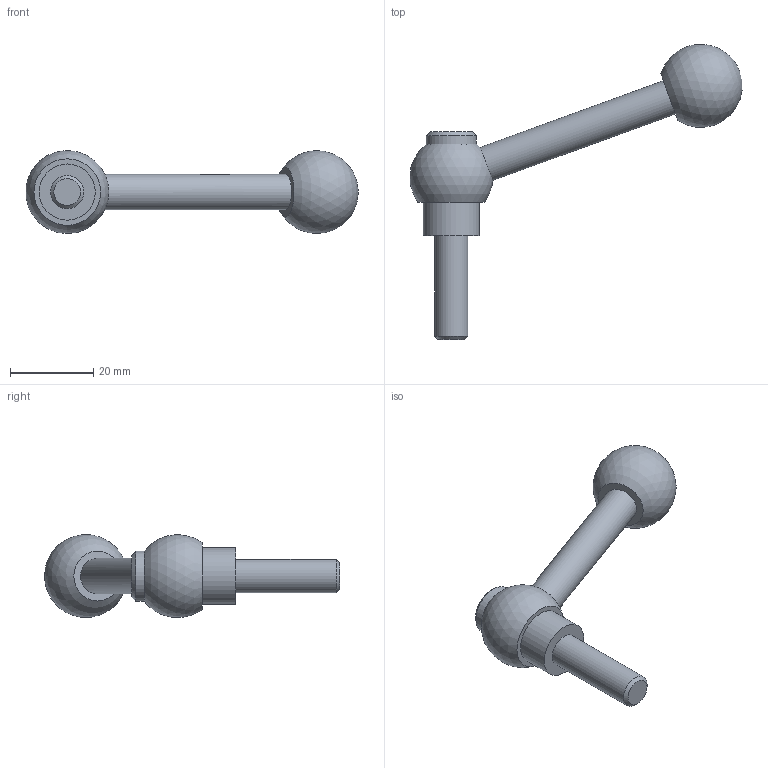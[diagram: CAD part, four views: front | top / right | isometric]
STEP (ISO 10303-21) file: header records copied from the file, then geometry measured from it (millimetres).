
FILE_DESCRIPTION( ( 'STEP AP203' ), '1' );
FILE_NAME( 'C:/Temp/Ganter_Step_05_03_2020/data/2_1/gn_6337_3/gn_6337_3_ms/gn_6337_3_ms_n/Adjustable clamping lever with bolt GN 6337.3-20-M8-25-N.stp', '2020-03-05T11:41:17', ( 'License CC BY-ND 4.0' ), ( 'CADENAS' ), ' ', 'PARTsolutions', ' ' );
FILE_SCHEMA( ( 'CONFIG_CONTROL_DESIGN' ) );
Length unit declared in the file: millimetre
Products named in the file (1): _Adjustable clamping lever with bolt GN 6337.3-20-M8-25-N
Bounding box: 79.86 x 70.97 x 19.96 mm (x, y, z)
Volume: 13055.2 mm3; surface area: 4618 mm2
Topology: 1 solids, 1 shells, 13 faces, 22 edges, 14 vertices
Faces by surface type: plane 5, cylinder 4, sphere 2, cone 2
Full cylindrical faces by diameter (mm): 8 x1, 8.5 x1, 12 x1, 13.5 x1
Entity records: 364 total; most frequent: CARTESIAN_POINT 104, DIRECTION 50, AXIS2_PLACEMENT_3D 25, EDGE_LOOP 24, ORIENTED_EDGE 24, FACE_OUTER_BOUND 18, ADVANCED_FACE 13, VERTEX_POINT 13
